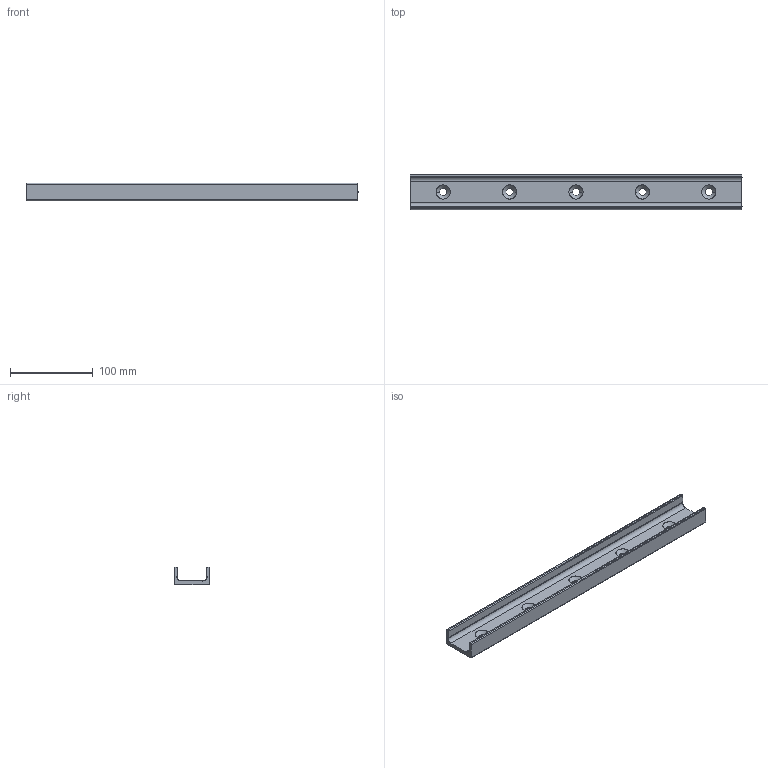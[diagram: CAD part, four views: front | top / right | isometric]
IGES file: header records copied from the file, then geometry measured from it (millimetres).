
Start section: SolidWorks IGES file using analytic representation for surfaces
Global section: file name: C:\Users\IanO\Desktop\43\L1943.ULV43_v2_20180121_IGES\L1943.ULV43-0400.igs; native system: SolidWorks 2017; preprocessor: SolidWorks 2017; author: IanO; date: 190121.085849; units: millimetre
Bounding box: 400 x 43 x 21 mm (x, y, z)
Surface area: 62623.1 mm2 (no closed solid volume)
Topology: 0 solids, 0 shells, 46 faces, 694 edges, 694 vertices
Faces by surface type: revolution 33, bspline 13
